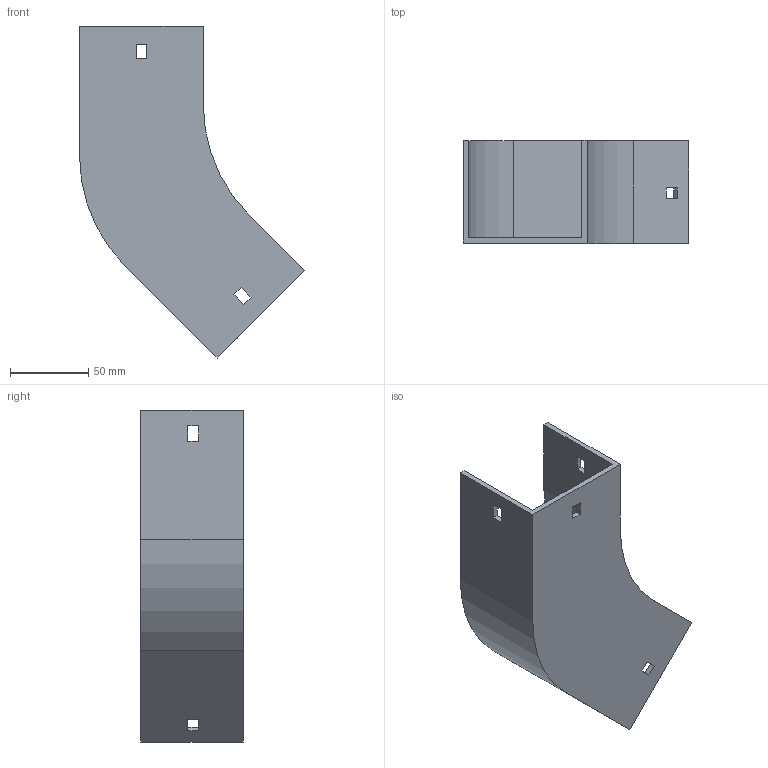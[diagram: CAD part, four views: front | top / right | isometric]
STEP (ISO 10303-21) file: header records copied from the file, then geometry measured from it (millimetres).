
FILE_DESCRIPTION (( 'STEP AP214' ), '1' );
FILE_NAME ('11B1H075.step', '2025-02-21T09:38:00', ( '' ), ( '' ), 'SwSTEP 2.0', 'SolidWorks 2023', '' );
FILE_SCHEMA (( 'AUTOMOTIVE_DESIGN' ));
Length unit declared in the file: millimetre
Products named in the file (1): 11B1H075
Bounding box: 143.64 x 65.5 x 211.93 mm (x, y, z)
Volume: 149902.4 mm3; surface area: 89251.3 mm2
Topology: 1 solids, 1 shells, 42 faces, 120 edges, 80 vertices
Faces by surface type: plane 38, cylinder 4
Entity records: 1399 total; most frequent: CARTESIAN_POINT 243, ORIENTED_EDGE 240, DIRECTION 214, EDGE_CURVE 120, LINE 112, VECTOR 112, VERTEX_POINT 80, EDGE_LOOP 54
